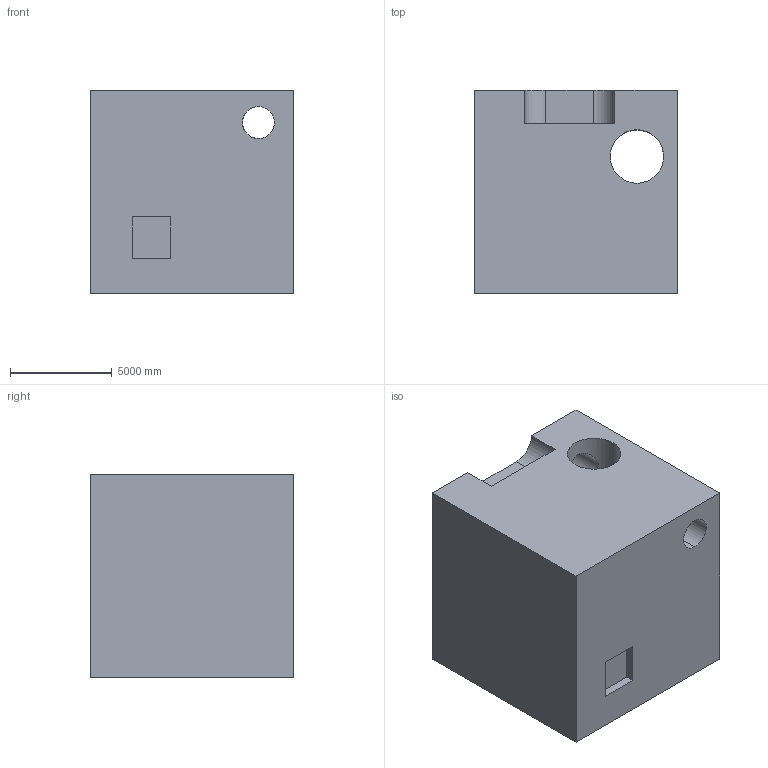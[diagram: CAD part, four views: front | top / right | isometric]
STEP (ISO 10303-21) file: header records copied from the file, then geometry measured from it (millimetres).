
FILE_DESCRIPTION (( 'STEP AP203' ), '1' );
FILE_NAME ('144.STEP', '2022-09-06T13:23:47', ( 'user' ), ( '' ), 'SwSTEP 2.0', 'SolidWorks 2021', '' );
FILE_SCHEMA (( 'CONFIG_CONTROL_DESIGN' ));
Length unit declared in the file: centimetre
Products named in the file (1): 144
Bounding box: 10000 x 10000 x 10000 mm (x, y, z)
Volume: 919343002571.1 mm3; surface area: 714040218 mm2
Topology: 1 solids, 1 shells, 27 faces, 66 edges, 44 vertices
Faces by surface type: plane 15, cylinder 12
Entity records: 1423 total; most frequent: CARTESIAN_POINT 680, DIRECTION 138, ORIENTED_EDGE 132, EDGE_CURVE 66, AXIS2_PLACEMENT_3D 48, VERTEX_POINT 44, VECTOR 42, LINE 42
